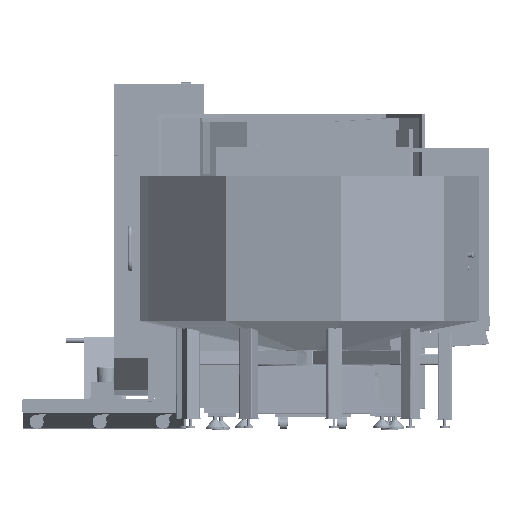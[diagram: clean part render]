
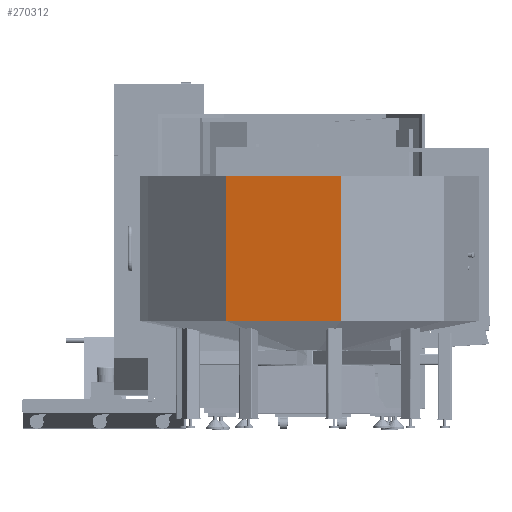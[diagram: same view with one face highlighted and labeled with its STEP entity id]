
A CAD part, top view. The second image highlights one B-rep face of the part: STEP entity #270312.
In plain terms, the highlighted planar face has unit normal (-0.174, 0, 0.985).
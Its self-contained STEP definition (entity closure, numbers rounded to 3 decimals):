
#13546 = VECTOR ( 'NONE', #613449, 1000. ) ;
#60871 = DIRECTION ( 'NONE',  ( 0.174, 0., -0.985 ) ) ;
#69120 = VERTEX_POINT ( 'NONE', #254404 ) ;
#83373 = VECTOR ( 'NONE', #474984, 1000. ) ;
#84115 = EDGE_CURVE ( 'NONE', #226262, #655237, #260369, .T. ) ;
#89703 = LINE ( 'NONE', #360384, #177328 ) ;
#90086 = VECTOR ( 'NONE', #549270, 1000. ) ;
#94432 = EDGE_CURVE ( 'NONE', #574890, #69120, #463143, .T. ) ;
#116491 = FACE_OUTER_BOUND ( 'NONE', #366003, .T. ) ;
#141589 = EDGE_CURVE ( 'NONE', #655237, #217749, #89703, .T. ) ;
#177328 = VECTOR ( 'NONE', #356721, 1000. ) ;
#180767 = EDGE_CURVE ( 'NONE', #69120, #217749, #697513, .T. ) ;
#186270 = DIRECTION ( 'NONE',  ( 0.985, 0., 0.174 ) ) ;
#209623 = CARTESIAN_POINT ( 'NONE',  ( 203.665, 1830.204, 3700.789 ) ) ;
#217749 = VERTEX_POINT ( 'NONE', #209623 ) ;
#226262 = VERTEX_POINT ( 'NONE', #705771 ) ;
#231344 = DIRECTION ( 'NONE',  ( -0.985, 0., -0.174 ) ) ;
#249203 = CARTESIAN_POINT ( 'NONE',  ( 203.665, 1830.204, 3700.789 ) ) ;
#254404 = CARTESIAN_POINT ( 'NONE',  ( -631.188, 1830.204, 3553.582 ) ) ;
#258452 = ORIENTED_EDGE ( 'NONE', *, *, #84115, .T. ) ;
#260369 = LINE ( 'NONE', #482717, #90086 ) ;
#270312 = ADVANCED_FACE ( 'NONE', ( #116491 ), #331568, .F. ) ;
#270863 = ORIENTED_EDGE ( 'NONE', *, *, #94432, .F. ) ;
#273812 = VECTOR ( 'NONE', #585286, 1000. ) ;
#291064 = ORIENTED_EDGE ( 'NONE', *, *, #141589, .T. ) ;
#331568 = PLANE ( 'NONE',  #557361 ) ;
#342541 = CARTESIAN_POINT ( 'NONE',  ( -631.188, -201.796, 3553.582 ) ) ;
#344763 = CARTESIAN_POINT ( 'NONE',  ( -631.188, -201.796, 3553.582 ) ) ;
#356721 = DIRECTION ( 'NONE',  ( 0., 1., 0. ) ) ;
#360384 = CARTESIAN_POINT ( 'NONE',  ( 203.665, -201.796, 3700.789 ) ) ;
#366003 = EDGE_LOOP ( 'NONE', ( #557418, #270863, #550972, #508735, #258452, #291064 ) ) ;
#383907 = LINE ( 'NONE', #547022, #13546 ) ;
#419389 = LINE ( 'NONE', #648968, #83373 ) ;
#462259 = CARTESIAN_POINT ( 'NONE',  ( 203.665, 779.073, 3700.789 ) ) ;
#463143 = LINE ( 'NONE', #344763, #273812 ) ;
#474497 = VERTEX_POINT ( 'NONE', #534312 ) ;
#474984 = DIRECTION ( 'NONE',  ( 0., 1., 0. ) ) ;
#481272 = EDGE_CURVE ( 'NONE', #474497, #226262, #419389, .T. ) ;
#482717 = CARTESIAN_POINT ( 'NONE',  ( -626.731, 779.073, 3554.368 ) ) ;
#508735 = ORIENTED_EDGE ( 'NONE', *, *, #481272, .T. ) ;
#510232 = CARTESIAN_POINT ( 'NONE',  ( -631.188, 779.073, 3553.582 ) ) ;
#534312 = CARTESIAN_POINT ( 'NONE',  ( -630.606, 778.995, 3553.685 ) ) ;
#547022 = CARTESIAN_POINT ( 'NONE',  ( -524.811, 764.937, 3572.339 ) ) ;
#549270 = DIRECTION ( 'NONE',  ( 0.985, 0., 0.174 ) ) ;
#550972 = ORIENTED_EDGE ( 'NONE', *, *, #580643, .F. ) ;
#557361 = AXIS2_PLACEMENT_3D ( 'NONE', #342541, #60871, #231344 ) ;
#557418 = ORIENTED_EDGE ( 'NONE', *, *, #180767, .F. ) ;
#574890 = VERTEX_POINT ( 'NONE', #510232 ) ;
#580643 = EDGE_CURVE ( 'NONE', #474497, #574890, #383907, .T. ) ;
#585286 = DIRECTION ( 'NONE',  ( 0., 1., 0. ) ) ;
#613449 = DIRECTION ( 'NONE',  ( -0.976, 0.13, -0.172 ) ) ;
#648968 = CARTESIAN_POINT ( 'NONE',  ( -630.606, 779.082, 3553.685 ) ) ;
#655237 = VERTEX_POINT ( 'NONE', #462259 ) ;
#696144 = VECTOR ( 'NONE', #186270, 1000. ) ;
#697513 = LINE ( 'NONE', #249203, #696144 ) ;
#705771 = CARTESIAN_POINT ( 'NONE',  ( -630.606, 779.073, 3553.685 ) ) ;
